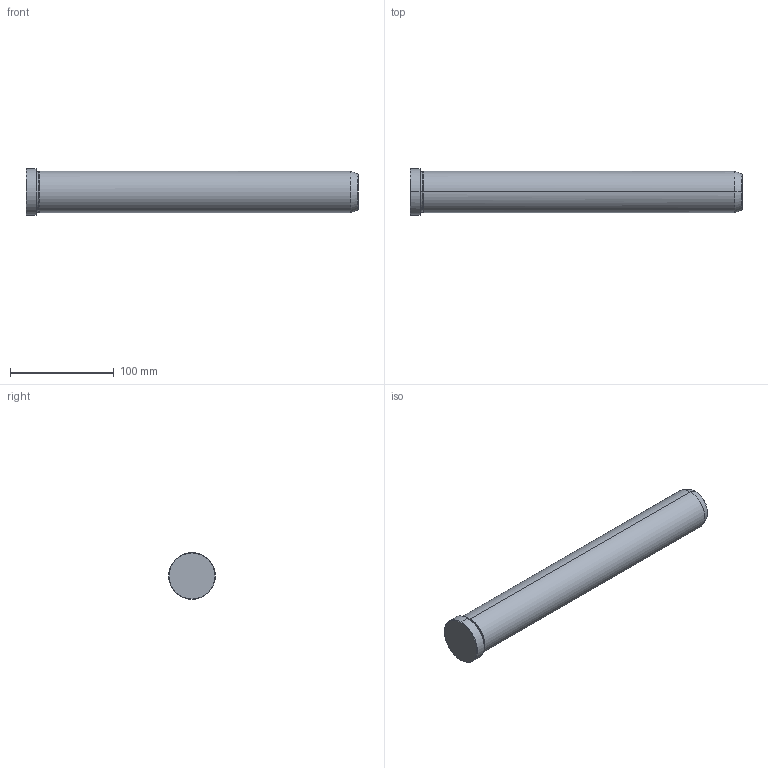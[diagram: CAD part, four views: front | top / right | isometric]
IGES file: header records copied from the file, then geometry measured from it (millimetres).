
Start section: START RECORD GO HERE.
Global section: file name: 549-40X320.igs; native system: DASSAULT SYSTEMES CATIA V5 R20 - www.3ds.com; preprocessor: CATIA Version 5 Release 20 ; author: Utente; organization: NB04-ASUS; date: 20211218.091230; units: millimetre
Bounding box: 320 x 45 x 45 mm (x, y, z)
Surface area: 43225.5 mm2 (no closed solid volume)
Topology: 0 solids, 0 shells, 19 faces, 112 edges, 112 vertices
Faces by surface type: revolution 16, plane 3
